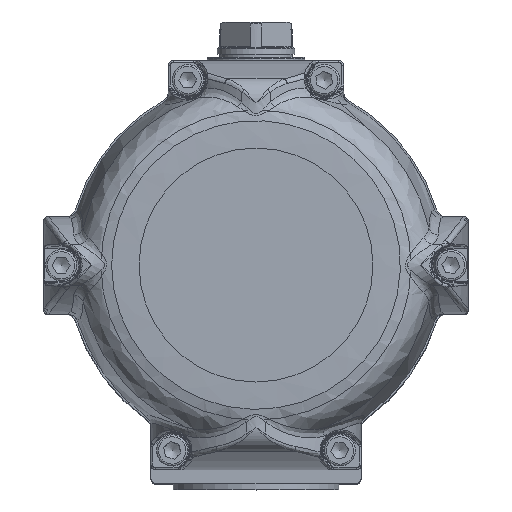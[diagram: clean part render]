
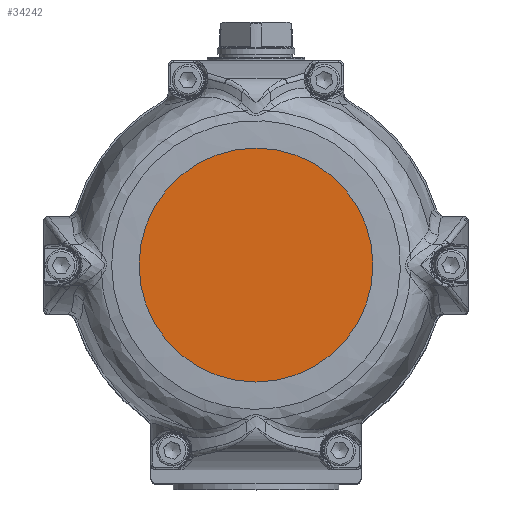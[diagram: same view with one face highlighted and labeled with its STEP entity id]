
A CAD part, top view. The second image highlights one B-rep face of the part: STEP entity #34242.
In plain terms, the highlighted free-form (B-spline) face has degree [1, 1] with [2, 2] control points.
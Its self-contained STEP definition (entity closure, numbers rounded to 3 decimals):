
#34222=CARTESIAN_POINT('',(-60.,0.,191.));
#34223=VERTEX_POINT('',#34222);
#34224=CARTESIAN_POINT('',(0.,0.,191.));
#34225=DIRECTION('',(0.0,0.0,1.0));
#34226=DIRECTION('',(-1.0,0.0,0.0));
#34227=AXIS2_PLACEMENT_3D('',#34224,#34225,#34226);
#34228=CIRCLE('',#34227,60.);
#34229=EDGE_CURVE('',#34223,#34223,#34228,.T.);
#34234=CARTESIAN_POINT('',(60.,-60.,191.));
#34235=CARTESIAN_POINT('',(60.,60.,191.));
#34236=CARTESIAN_POINT('',(-60.,-60.,191.));
#34237=CARTESIAN_POINT('',(-60.,60.,191.));
#34238=B_SPLINE_SURFACE_WITH_KNOTS('',1,1,((#34234,#34236),(#34235,#34237)),.UNSPECIFIED.,.F.,.F.,.U.,(2,2),(2,2),(0.0,120.),(0.0,120.),.UNSPECIFIED.);
#34239=ORIENTED_EDGE('',*,*,#34229,.T.);
#34240=EDGE_LOOP('',(#34239));
#34241=FACE_OUTER_BOUND('',#34240,.T.);
#34242=ADVANCED_FACE('',(#34241),#34238,.T.);
